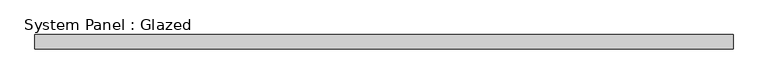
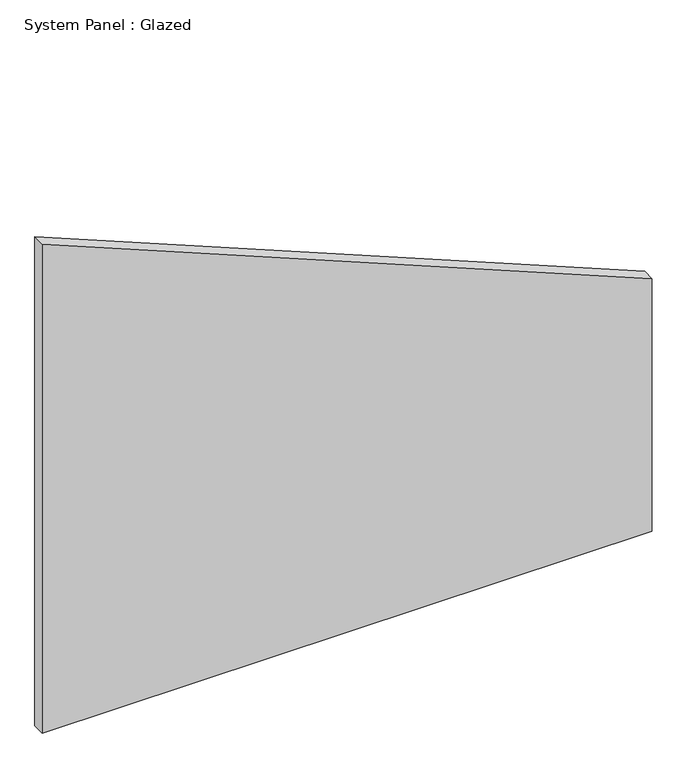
"""IFC4 building model written with IfcOpenShell, lengths in millimetres: plate geometry, System Panel : Glazed."""

from ifc_helpers import new_model, si_unit, frame, origin, place, context, project, spatial, polyline, outline, extrude, source, transform, mapped, element, save


def system_panel_glazed_b58b5e35(model_context):
    return source(origin(), model_context, "Body", "SweptSolid", [
        extrude(outline(polyline([(0.0, -625.475), (0.0, 625.475), (547.2456067, 625.475), (1059.8356859, -625.475), (0.0, -625.475)])), frame((0.0, 19.05, 0.0), z_axis=(0.0, 1.0, 0.0), x_axis=(0.0, 0.0, 1.0)), (0.0, 0.0, 1.0), 25.4),
    ])


if __name__ == "__main__":
    model = new_model("IFC4")
    model_context = context("Model", 3, world=origin())
    ifc_project = project(units=[si_unit("LENGTHUNIT", "METRE", prefix="MILLI")], contexts=[model_context])
    site = spatial("IfcSite", under=ifc_project)
    building = spatial("IfcBuilding", under=site)
    placement = place(None, origin())
    system_panel_glazed_shape = system_panel_glazed_b58b5e35(model_context)
    element("IfcPlate", 1, ObjectType="System Panel : Glazed", at=placement, inside=building, context=model_context, shape_type="MappedRepresentation", body=[
        mapped(system_panel_glazed_shape, transform((0.0, 0.0, 0.0), x_axis=(1.0, 0.0, 0.0), y_axis=(0.0, 1.0, 0.0), z_axis=(0.0, 0.0, 1.0))),
    ])
    save(model, "model.ifc")
